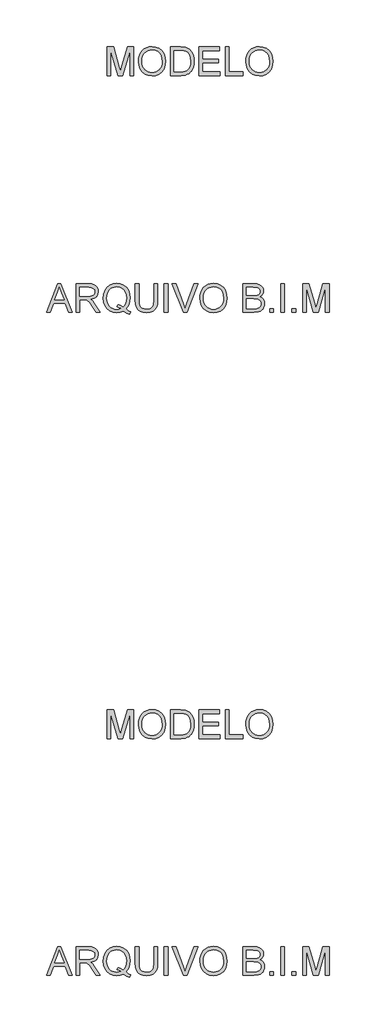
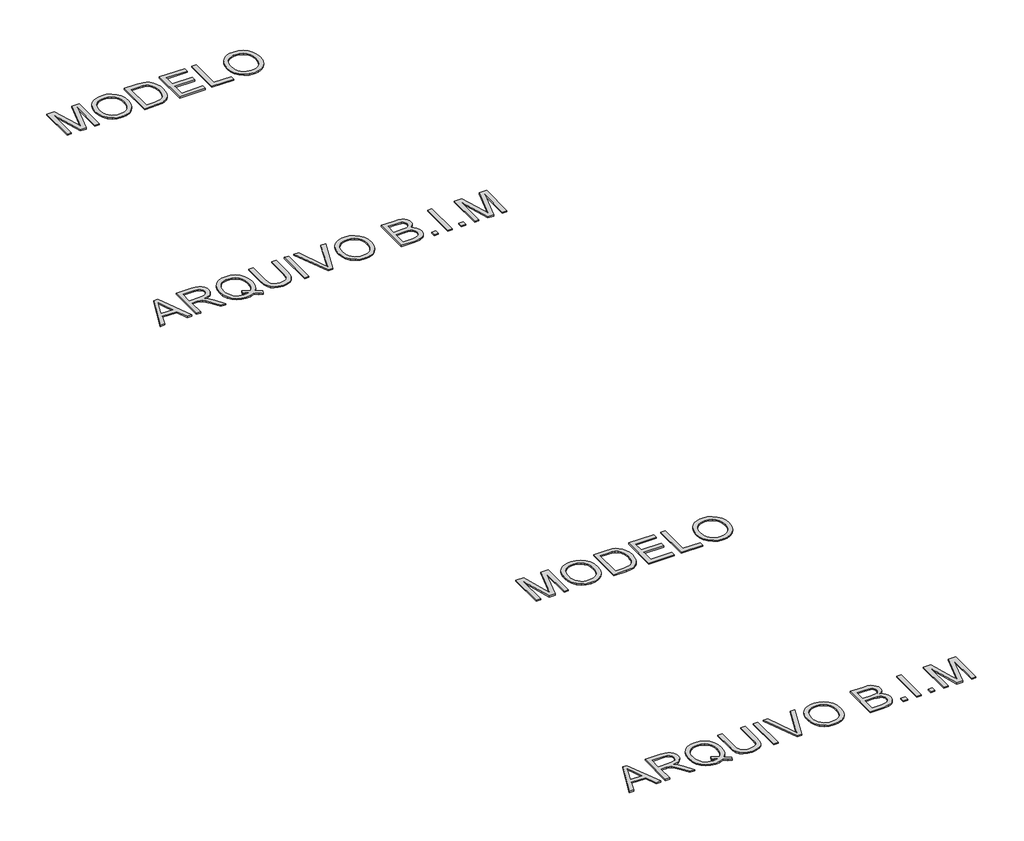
# One storey, part 11 of 19: 4 proxies.
"""IFC4 building model written with IfcOpenShell, lengths in millimetres."""

from ifc_helpers import new_model, si_unit, origin, origin_with_axes, place, context, project, spatial, polyline, outline, extrude, element, save

model = new_model("IFC4")

# Units and contexts
model_context = context("Model", 3, world=origin())
ifc_project = project(units=[si_unit("LENGTHUNIT", "METRE", prefix="MILLI")], contexts=[model_context])

# Site, building, storey
site = spatial("IfcSite", under=ifc_project)
building = spatial("IfcBuilding", under=site)
storey = spatial("IfcBuildingStorey", under=building, Name="Marelli - Linha ACTIVE - Planta Baixa", Elevation=0.0)

# Proxies
placement = place(None, origin())
element("IfcBuildingElementProxy", 1, Name="300mm Arial", ObjectType="300mm Arial", at=placement, inside=storey, context=model_context, shape_type="SweptSolid", body=[
    extrude(outline(polyline([(-5609.419598, -42280.5663201), (-5489.1221856, -41979.1973896), (-5457.0428756, -41979.1973896), (-5336.7454632, -42280.5663201), (-5376.550295, -42280.5663201), (-5411.0576262, -42186.3885293), (-5535.1810114, -42186.3885293), (-5569.6147661, -42280.5663201), (-5609.419598, -42280.5663201)]), holes=[polyline([(-5521.3486483, -42148.717413), (-5424.8164128, -42148.717413), (-5451.9661041, -42074.6259792), (-5473.0825306, -42016.8685059), (-5491.8445123, -42068.1512561), (-5521.3486483, -42148.717413)])]), origin_with_axes(), (0.0, 0.0, 1.0), 10.0),
    extrude(outline(polyline([(-5296.4991729, -42280.5663201), (-5296.4991729, -41979.1973896), (-5166.6368286, -41979.1973896), (-5131.7340243, -41981.2299376), (-5106.3409696, -41987.3275817), (-5087.7813229, -41998.5847708), (-5073.3787428, -42016.0959537), (-5064.1357077, -42037.8101885), (-5061.054696, -42061.6765329), (-5066.1590587, -42091.3646099), (-5081.4721467, -42115.9759154), (-5093.0719259, -42126.0052983), (-5107.4538126, -42134.0205273), (-5144.5639089, -42144.0085235), (-5123.1531768, -42160.1217548), (-5092.6189712, -42198.8965171), (-5042.3662906, -42280.5663201), (-5086.144248, -42280.5663201), (-5125.3604687, -42218.0999573), (-5153.6873824, -42176.750021), (-5173.5897983, -42157.2154871), (-5191.5056515, -42150.0417882), (-5213.357842, -42148.717413), (-5258.8280566, -42148.717413), (-5258.8280566, -42280.5663201), (-5296.4991729, -42280.5663201)]), holes=[polyline([(-5258.8280566, -42111.0462967), (-5174.5095033, -42111.0462967), (-5150.293671, -42109.7127245), (-5131.5040981, -42105.7120078), (-5117.3590353, -42098.7774322), (-5107.0767336, -42088.6422832), (-5100.8135426, -42076.3826157), (-5098.7258123, -42063.0744845), (-5102.7081349, -42044.6987789), (-5114.6551027, -42029.8915286), (-5135.2105092, -42020.1242616), (-5165.0181478, -42016.8685059), (-5258.8280566, -42016.8685059), (-5258.8280566, -42111.0462967)])]), origin_with_axes(), (0.0, 0.0, 1.0), 10.0),
    extrude(outline(polyline([(-4768.7356626, -42244.4403081), (-4744.4002686, -42263.036743), (-4722.0146492, -42275.8574305), (-4732.1681923, -42303.4485802), (-4763.2358268, -42289.0460001), (-4794.1930967, -42268.205485), (-4829.0499157, -42281.0077785), (-4867.4016137, -42285.2752096), (-4905.9372527, -42280.3547879), (-4940.7572836, -42265.5935229), (-4969.9211287, -42241.9203165), (-4991.4882107, -42210.2640708), (-5004.814736, -42172.3630282), (-5009.2569111, -42129.9554312), (-5004.823933, -42087.511046), (-4991.5249989, -42049.0581805), (-4970.0406904, -42016.9512794), (-4941.0515892, -41993.5447874), (-4906.360317, -41979.2525719), (-4867.7694957, -41974.4885001), (-4828.8751718, -41979.3629365), (-4794.0091557, -41993.9862458), (-4765.0660397, -42017.3835407), (-4743.9404161, -42048.5799339), (-4731.0277581, -42085.9199564), (-4726.7235388, -42127.7481393), (-4729.3355009, -42162.5313819), (-4737.1713874, -42193.5990164), (-4750.2863806, -42220.9142546), (-4768.7356626, -42244.4403081)]), holes=[polyline([(-4857.0273415, -42194.3347804), (-4825.3527017, -42206.3093393), (-4799.784903, -42222.9559996), (-4784.3016695, -42205.4816049), (-4773.2422171, -42184.1076609), (-4766.6065456, -42158.8341679), (-4764.3946551, -42129.6611256), (-4767.521652, -42096.5057608), (-4776.9026429, -42067.8201623), (-4792.3077015, -42044.3308969), (-4813.5069014, -42026.7645316), (-4839.065503, -42015.8108452), (-4867.5487665, -42012.1596164), (-4889.033075, -42014.0059242), (-4908.6043972, -42019.5448474), (-4926.2627329, -42028.7763863), (-4942.0080823, -42041.7005406), (-4954.9483315, -42058.2897193), (-4964.1913666, -42078.5163313), (-4969.7371877, -42102.3803764), (-4971.5857948, -42129.8818548), (-4969.7578811, -42156.6659634), (-4964.2741401, -42180.1437324), (-4955.1345718, -42200.3151621), (-4942.3391761, -42217.1802523), (-4926.7018921, -42230.4906827), (-4909.0366585, -42239.9981331), (-4889.3434755, -42245.7026032), (-4867.6223429, -42247.6040933), (-4846.7082515, -42245.6727128), (-4827.081747, -42239.8785714), (-4846.3771577, -42229.853787), (-4866.7394261, -42223.1767288), (-4857.0273415, -42194.3347804)])]), origin_with_axes(), (0.0, 0.0, 1.0), 10.0),
    extrude(outline(polyline([(-4472.4435037, -41979.1973896), (-4434.7723874, -41979.1973896), (-4434.7723874, -42153.0584205), (-4437.3291673, -42193.7737604), (-4444.9995069, -42225.1265034), (-4459.3285106, -42249.3147446), (-4481.8612828, -42268.5365788), (-4512.6530058, -42281.0905519), (-4551.7588619, -42285.2752096), (-4590.0093923, -42281.6331779), (-4620.5895832, -42270.7070826), (-4643.5086315, -42252.8740029), (-4658.7757343, -42228.5110178), (-4667.3565818, -42195.8338995), (-4670.2168643, -42153.0584205), (-4670.2168643, -41979.1973896), (-4632.545748, -41979.1973896), (-4632.545748, -42151.7340454), (-4630.6879439, -42185.588386), (-4625.1145317, -42209.1604248), (-4615.0161709, -42225.4851883), (-4599.5835212, -42237.597703), (-4579.4603761, -42245.1024957), (-4555.290529, -42247.6040933), (-4516.9756192, -42242.6560805), (-4502.6328199, -42236.4710644), (-4491.499791, -42227.812042), (-4483.1626653, -42215.6351479), (-4477.2075755, -42198.8965171), (-4472.4435037, -42151.7340454), (-4472.4435037, -41979.1973896)])), origin_with_axes(), (0.0, 0.0, 1.0), 10.0),
    extrude(outline(polyline([(-4364.1390443, -42280.5663201), (-4364.1390443, -41979.1973896), (-4326.467928, -41979.1973896), (-4326.467928, -42280.5663201), (-4364.1390443, -42280.5663201)])), origin_with_axes(), (0.0, 0.0, 1.0), 10.0),
    extrude(outline(polyline([(-4162.0982526, -42280.5663201), (-4282.027783, -41979.1973896), (-4241.7079163, -41979.1973896), (-4161.436065, -42196.3213432), (-4145.1756808, -42245.2496485), (-4129.1360258, -42196.3213432), (-4048.6434453, -41979.1973896), (-4008.3235786, -41979.1973896), (-4123.1763375, -42280.5663201), (-4162.0982526, -42280.5663201)])), origin_with_axes(), (0.0, 0.0, 1.0), 10.0),
    extrude(outline(polyline([(-3987.4278813, -42133.8549804), (-3984.9170866, -42098.5061192), (-3977.3847028, -42067.213157), (-3964.8307297, -42039.9760937), (-3947.2551674, -42016.7949295), (-3925.711078, -41998.2858666), (-3901.2515239, -41985.0651074), (-3873.8765049, -41977.1326519), (-3843.5860211, -41974.4885001), (-3804.0571008, -41979.454907), (-3768.6116705, -41994.3541278), (-3739.1811109, -42018.1376988), (-3717.6968024, -42049.7571563), (-3704.5634152, -42087.68579), (-3700.1856194, -42130.3968896), (-3704.7933414, -42173.6782064), (-3718.6165074, -42212.140269), (-3740.8917622, -42243.8149087), (-3770.8557507, -42266.733957), (-3805.9976783, -42280.6398965), (-3843.8067503, -42285.2752096), (-3883.942676, -42280.1524528), (-3919.5904413, -42264.7841825), (-3948.9474246, -42240.5591531), (-3970.2110039, -42208.8661192), (-3983.1236619, -42172.3998164), (-3987.4278813, -42133.8549804)]), holes=[polyline([(-3949.7567649, -42134.2228624), (-3947.873669, -42159.1974513), (-3942.2243811, -42181.3669401), (-3932.8089013, -42200.7313286), (-3919.6272295, -42217.2906169), (-3903.6036694, -42230.5527628), (-3885.6625243, -42240.0257242), (-3865.8037944, -42245.709501), (-3844.0274795, -42247.6040933), (-3821.8786842, -42245.6911069), (-3801.7854294, -42239.9521478), (-3783.7477154, -42230.3872159), (-3767.7655419, -42216.9963113), (-3754.6804392, -42200.0875351), (-3745.3339373, -42179.9689885), (-3739.7260361, -42156.6406715), (-3737.8567357, -42130.102584), (-3741.0573091, -42096.7540812), (-3750.6590292, -42067.9305269), (-3766.4135756, -42044.358488), (-3788.0726281, -42026.7645316), (-3814.2014468, -42015.8108452), (-3843.3652919, -42012.1596164), (-3864.3851494, -42013.9185522), (-3883.8874937, -42019.1953595), (-3901.8723248, -42027.9900385), (-3918.3396426, -42040.302589), (-3932.0846336, -42056.7262208), (-3941.9024844, -42077.8541437), (-3947.7931948, -42103.6863575), (-3949.7567649, -42134.2228624)])]), origin_with_axes(), (0.0, 0.0, 1.0), 10.0),
    extrude(outline(polyline([(-3530.665596, -42280.5663201), (-3530.665596, -41979.1973896), (-3415.6656844, -41979.1973896), (-3384.0370298, -41981.4138786), (-3359.3429509, -41988.0633457), (-3340.4154222, -41999.3113377), (-3326.0864185, -42015.3234015), (-3317.0641126, -42034.1589597), (-3314.0566773, -42053.8774346), (-3316.585866, -42072.0232141), (-3324.1734321, -42089.0837416), (-3336.874558, -42104.0105535), (-3354.7444259, -42115.7551862), (-3333.3980732, -42126.9020107), (-3317.6251326, -42143.8613707), (-3307.8854568, -42165.5112261), (-3304.6388982, -42190.7295368), (-3306.8553872, -42211.7447958), (-3313.5048543, -42231.2333445), (-3323.4284711, -42247.8064284), (-3335.4674094, -42260.0752929), (-3350.2102804, -42268.9596431), (-3368.2456952, -42275.3791839), (-3416.5486011, -42280.5663201), (-3530.665596, -42280.5663201)]), holes=[polyline([(-3492.9944797, -42101.6285176), (-3424.2005466, -42101.6285176), (-3384.0278328, -42098.3911561), (-3369.9655435, -42092.8085468), (-3359.8579857, -42084.4484284), (-3353.7603416, -42073.4395597), (-3351.7277936, -42059.9106994), (-3353.6223859, -42046.7773121), (-3359.3061627, -42035.3361821), (-3368.5216067, -42026.4058467), (-3381.0112004, -42020.8048433), (-3429.424471, -42016.8685059), (-3492.9944797, -42016.8685059), (-3492.9944797, -42101.6285176)]), polyline([(-3492.9944797, -42242.8952038), (-3415.7392607, -42242.8952038), (-3387.7802291, -42241.4236758), (-3364.1254168, -42233.2199073), (-3348.4536438, -42216.4812765), (-3343.8459218, -42204.6538704), (-3342.3100145, -42191.0974188), (-3344.1126363, -42175.3520694), (-3349.5205016, -42161.814012), (-3358.9658718, -42151.2282076), (-3372.8810083, -42144.3396173), (-3392.5902862, -42140.5596298), (-3419.4180807, -42139.2996339), (-3492.9944797, -42139.2996339), (-3492.9944797, -42242.8952038)])]), origin_with_axes(), (0.0, 0.0, 1.0), 10.0),
    extrude(outline(polyline([(-3248.1322237, -42280.5663201), (-3248.1322237, -42242.8952038), (-3210.4611074, -42242.8952038), (-3210.4611074, -42280.5663201), (-3248.1322237, -42280.5663201)])), origin_with_axes(), (0.0, 0.0, 1.0), 10.0),
    extrude(outline(polyline([(-3130.4099853, -42280.5663201), (-3130.4099853, -41979.1973896), (-3092.738869, -41979.1973896), (-3092.738869, -42280.5663201), (-3130.4099853, -42280.5663201)])), origin_with_axes(), (0.0, 0.0, 1.0), 10.0),
    extrude(outline(polyline([(-3012.6877468, -42280.5663201), (-3012.6877468, -42242.8952038), (-2975.0166305, -42242.8952038), (-2975.0166305, -42280.5663201), (-3012.6877468, -42280.5663201)])), origin_with_axes(), (0.0, 0.0, 1.0), 10.0),
    extrude(outline(polyline([(-2899.6743979, -42280.5663201), (-2899.6743979, -41979.1973896), (-2834.8535904, -41979.1973896), (-2773.196568, -42191.6124536), (-2760.7621565, -42235.9790223), (-2747.2976755, -42187.9336337), (-2686.6707227, -41979.1973896), (-2621.8499152, -41979.1973896), (-2621.8499152, -42280.5663201), (-2659.5210315, -42280.5663201), (-2659.5210315, -42016.8685059), (-2735.2311461, -42280.5663201), (-2786.293167, -42280.5663201), (-2862.0032816, -42016.8685059), (-2862.0032816, -42280.5663201), (-2899.6743979, -42280.5663201)])), origin_with_axes(), (0.0, 0.0, 1.0), 10.0),
])
element("IfcBuildingElementProxy", 2, Name="300mm Arial", ObjectType="300mm Arial", at=placement, inside=storey, context=model_context, shape_type="SweptSolid", body=[
    extrude(outline(polyline([(-4966.8769052, -39780.5663201), (-4966.8769052, -39479.1973896), (-4902.0560977, -39479.1973896), (-4840.3990753, -39691.6124536), (-4827.9646638, -39735.9790223), (-4814.5001828, -39687.9336337), (-4753.87323, -39479.1973896), (-4689.0524225, -39479.1973896), (-4689.0524225, -39780.5663201), (-4726.7235388, -39780.5663201), (-4726.7235388, -39516.8685059), (-4802.4336534, -39780.5663201), (-4853.4956743, -39780.5663201), (-4929.2057889, -39516.8685059), (-4929.2057889, -39780.5663201), (-4966.8769052, -39780.5663201)])), origin_with_axes(), (0.0, 0.0, 1.0), 10.0),
    extrude(outline(polyline([(-4637.2546375, -39633.8549804), (-4634.7438429, -39598.5061192), (-4627.2114591, -39567.213157), (-4614.657486, -39539.9760937), (-4597.0819237, -39516.7949295), (-4575.5378343, -39498.2858666), (-4551.0782802, -39485.0651074), (-4523.7032612, -39477.1326519), (-4493.4127774, -39474.4885001), (-4453.883857, -39479.454907), (-4418.4384268, -39494.3541278), (-4389.0078672, -39518.1376988), (-4367.5235587, -39549.7571563), (-4354.3901714, -39587.68579), (-4350.0123757, -39630.3968896), (-4354.6200977, -39673.6782064), (-4368.4432637, -39712.140269), (-4390.7185185, -39743.8149087), (-4420.682507, -39766.733957), (-4455.8244346, -39780.6398965), (-4493.6335066, -39785.2752096), (-4533.7694323, -39780.1524528), (-4569.4171976, -39764.7841825), (-4598.7741808, -39740.5591531), (-4620.0377602, -39708.8661192), (-4632.9504182, -39672.3998164), (-4637.2546375, -39633.8549804)]), holes=[polyline([(-4599.5835212, -39634.2228624), (-4597.7004253, -39659.1974513), (-4592.0511374, -39681.3669401), (-4582.6356576, -39700.7313286), (-4569.4539858, -39717.2906169), (-4553.4304257, -39730.5527628), (-4535.4892806, -39740.0257242), (-4515.6305507, -39745.709501), (-4493.8542358, -39747.6040933), (-4471.7054404, -39745.6911069), (-4451.6121857, -39739.9521478), (-4433.5744716, -39730.3872159), (-4417.5922982, -39716.9963113), (-4404.5071955, -39700.0875351), (-4395.1606936, -39679.9689885), (-4389.5527924, -39656.6406715), (-4387.683492, -39630.102584), (-4390.8840654, -39596.7540812), (-4400.4857854, -39567.9305269), (-4416.2403319, -39544.358488), (-4437.8993843, -39526.7645316), (-4464.0282031, -39515.8108452), (-4493.1920482, -39512.1596164), (-4514.2119057, -39513.9185522), (-4533.71425, -39519.1953595), (-4551.699081, -39527.9900385), (-4568.1663988, -39540.302589), (-4581.9113899, -39556.7262208), (-4591.7292406, -39577.8541437), (-4597.6199511, -39603.6863575), (-4599.5835212, -39634.2228624)])]), origin_with_axes(), (0.0, 0.0, 1.0), 10.0),
    extrude(outline(polyline([(-4298.2145908, -39780.5663201), (-4298.2145908, -39479.1973896), (-4194.2511389, -39479.1973896), (-4140.4667912, -39483.5383972), (-4116.444097, -39491.9077126), (-4096.173799, -39505.0962821), (-4075.333284, -39528.0521186), (-4060.4892455, -39556.5997614), (-4051.6048953, -39590.1873876), (-4048.6434453, -39628.2631741), (-4050.6484021, -39660.6091985), (-4056.6632727, -39689.0740679), (-4065.8235344, -39713.3082943), (-4077.2646645, -39732.9623899), (-4090.4348399, -39748.477813), (-4104.7822377, -39760.2960221), (-4121.254154, -39769.0608107), (-4140.797885, -39775.4159721), (-4189.2479438, -39780.5663201), (-4298.2145908, -39780.5663201)]), holes=[polyline([(-4260.5434745, -39742.8952038), (-4193.8832569, -39742.8952038), (-4166.3105014, -39741.5340404), (-4145.39641, -39737.4505502), (-4129.6142724, -39730.8838566), (-4117.4373783, -39722.0730828), (-4104.3499764, -39705.7667134), (-4094.5183301, -39684.6594839), (-4088.3655037, -39658.6594239), (-4086.3145616, -39627.6745629), (-4090.3336724, -39586.6189322), (-4102.3910047, -39556.3054558), (-4120.2056904, -39535.4833349), (-4141.4968608, -39522.9017706), (-4163.1651104, -39518.3768221), (-4194.9133265, -39516.8685059), (-4260.5434745, -39516.8685059), (-4260.5434745, -39742.8952038)])]), origin_with_axes(), (0.0, 0.0, 1.0), 10.0),
    extrude(outline(polyline([(-3996.8456603, -39780.5663201), (-3996.8456603, -39479.1973896), (-3780.2367416, -39479.1973896), (-3780.2367416, -39516.8685059), (-3959.174544, -39516.8685059), (-3959.174544, -39606.3374072), (-3789.6545206, -39606.3374072), (-3789.6545206, -39644.0085235), (-3959.174544, -39644.0085235), (-3959.174544, -39742.8952038), (-3775.527852, -39742.8952038), (-3775.527852, -39780.5663201), (-3996.8456603, -39780.5663201)])), origin_with_axes(), (0.0, 0.0, 1.0), 10.0),
    extrude(outline(polyline([(-3719.0211776, -39780.5663201), (-3719.0211776, -39479.1973896), (-3681.3500613, -39479.1973896), (-3681.3500613, -39742.8952038), (-3530.665596, -39742.8952038), (-3530.665596, -39780.5663201), (-3719.0211776, -39780.5663201)])), origin_with_axes(), (0.0, 0.0, 1.0), 10.0),
    extrude(outline(polyline([(-3502.4122588, -39633.8549804), (-3499.9014642, -39598.5061192), (-3492.3690803, -39567.213157), (-3479.8151073, -39539.9760937), (-3462.2395449, -39516.7949295), (-3440.6954556, -39498.2858666), (-3416.2359014, -39485.0651074), (-3388.8608825, -39477.1326519), (-3358.5703987, -39474.4885001), (-3319.0414783, -39479.454907), (-3283.5960481, -39494.3541278), (-3254.1654885, -39518.1376988), (-3232.6811799, -39549.7571563), (-3219.5477927, -39587.68579), (-3215.169997, -39630.3968896), (-3219.777719, -39673.6782064), (-3233.6008849, -39712.140269), (-3255.8761397, -39743.8149087), (-3285.8401283, -39766.733957), (-3320.9820558, -39780.6398965), (-3358.7911279, -39785.2752096), (-3398.9270536, -39780.1524528), (-3434.5748189, -39764.7841825), (-3463.9318021, -39740.5591531), (-3485.1953814, -39708.8661192), (-3498.1080395, -39672.3998164), (-3502.4122588, -39633.8549804)]), holes=[polyline([(-3464.7411425, -39634.2228624), (-3462.8580465, -39659.1974513), (-3457.2087587, -39681.3669401), (-3447.7932788, -39700.7313286), (-3434.6116071, -39717.2906169), (-3418.5880469, -39730.5527628), (-3400.6469019, -39740.0257242), (-3380.7881719, -39745.709501), (-3359.0118571, -39747.6040933), (-3336.8630617, -39745.6911069), (-3316.769807, -39739.9521478), (-3298.7320929, -39730.3872159), (-3282.7499195, -39716.9963113), (-3269.6648168, -39700.0875351), (-3260.3183148, -39679.9689885), (-3254.7104137, -39656.6406715), (-3252.8411133, -39630.102584), (-3256.0416866, -39596.7540812), (-3265.6434067, -39567.9305269), (-3281.3979532, -39544.358488), (-3303.0570056, -39526.7645316), (-3329.1858243, -39515.8108452), (-3358.3496695, -39512.1596164), (-3379.369527, -39513.9185522), (-3398.8718713, -39519.1953595), (-3416.8567023, -39527.9900385), (-3433.3240201, -39540.302589), (-3447.0690112, -39556.7262208), (-3456.8868619, -39577.8541437), (-3462.7775724, -39603.6863575), (-3464.7411425, -39634.2228624)])]), origin_with_axes(), (0.0, 0.0, 1.0), 10.0),
])
element("IfcBuildingElementProxy", 3, Name="300mm Arial", ObjectType="300mm Arial", at=placement, inside=storey, context=model_context, shape_type="SweptSolid", body=[
    extrude(outline(polyline([(-5609.419598, -49280.5663201), (-5489.1221856, -48979.1973896), (-5457.0428756, -48979.1973896), (-5336.7454632, -49280.5663201), (-5376.550295, -49280.5663201), (-5411.0576262, -49186.3885293), (-5535.1810114, -49186.3885293), (-5569.6147661, -49280.5663201), (-5609.419598, -49280.5663201)]), holes=[polyline([(-5521.3486483, -49148.717413), (-5424.8164128, -49148.717413), (-5451.9661041, -49074.6259792), (-5473.0825306, -49016.8685059), (-5491.8445123, -49068.1512561), (-5521.3486483, -49148.717413)])]), origin_with_axes(), (0.0, 0.0, 1.0), 10.0),
    extrude(outline(polyline([(-5296.4991729, -49280.5663201), (-5296.4991729, -48979.1973896), (-5166.6368286, -48979.1973896), (-5131.7340243, -48981.2299376), (-5106.3409696, -48987.3275817), (-5087.7813229, -48998.5847708), (-5073.3787428, -49016.0959537), (-5064.1357077, -49037.8101885), (-5061.054696, -49061.6765329), (-5066.1590587, -49091.3646099), (-5081.4721467, -49115.9759154), (-5093.0719259, -49126.0052983), (-5107.4538126, -49134.0205273), (-5144.5639089, -49144.0085235), (-5123.1531768, -49160.1217548), (-5092.6189712, -49198.8965171), (-5042.3662906, -49280.5663201), (-5086.144248, -49280.5663201), (-5125.3604687, -49218.0999573), (-5153.6873824, -49176.750021), (-5173.5897983, -49157.2154871), (-5191.5056515, -49150.0417882), (-5213.357842, -49148.717413), (-5258.8280566, -49148.717413), (-5258.8280566, -49280.5663201), (-5296.4991729, -49280.5663201)]), holes=[polyline([(-5258.8280566, -49111.0462967), (-5174.5095033, -49111.0462967), (-5150.293671, -49109.7127245), (-5131.5040981, -49105.7120078), (-5117.3590353, -49098.7774322), (-5107.0767336, -49088.6422832), (-5100.8135426, -49076.3826157), (-5098.7258123, -49063.0744845), (-5102.7081349, -49044.6987789), (-5114.6551027, -49029.8915286), (-5135.2105092, -49020.1242616), (-5165.0181478, -49016.8685059), (-5258.8280566, -49016.8685059), (-5258.8280566, -49111.0462967)])]), origin_with_axes(), (0.0, 0.0, 1.0), 10.0),
    extrude(outline(polyline([(-4768.7356626, -49244.4403081), (-4744.4002686, -49263.036743), (-4722.0146492, -49275.8574305), (-4732.1681923, -49303.4485802), (-4763.2358268, -49289.0460001), (-4794.1930967, -49268.205485), (-4829.0499157, -49281.0077785), (-4867.4016137, -49285.2752096), (-4905.9372527, -49280.3547879), (-4940.7572836, -49265.5935229), (-4969.9211287, -49241.9203165), (-4991.4882107, -49210.2640708), (-5004.814736, -49172.3630282), (-5009.2569111, -49129.9554312), (-5004.823933, -49087.511046), (-4991.5249989, -49049.0581805), (-4970.0406904, -49016.9512794), (-4941.0515892, -48993.5447874), (-4906.360317, -48979.2525719), (-4867.7694957, -48974.4885001), (-4828.8751718, -48979.3629365), (-4794.0091557, -48993.9862458), (-4765.0660397, -49017.3835407), (-4743.9404161, -49048.5799339), (-4731.0277581, -49085.9199564), (-4726.7235388, -49127.7481393), (-4729.3355009, -49162.5313819), (-4737.1713874, -49193.5990164), (-4750.2863806, -49220.9142546), (-4768.7356626, -49244.4403081)]), holes=[polyline([(-4857.0273415, -49194.3347804), (-4825.3527017, -49206.3093393), (-4799.784903, -49222.9559996), (-4784.3016695, -49205.4816049), (-4773.2422171, -49184.1076609), (-4766.6065456, -49158.8341679), (-4764.3946551, -49129.6611256), (-4767.521652, -49096.5057608), (-4776.9026429, -49067.8201623), (-4792.3077015, -49044.3308969), (-4813.5069014, -49026.7645316), (-4839.065503, -49015.8108452), (-4867.5487665, -49012.1596164), (-4889.033075, -49014.0059242), (-4908.6043972, -49019.5448474), (-4926.2627329, -49028.7763863), (-4942.0080823, -49041.7005406), (-4954.9483315, -49058.2897193), (-4964.1913666, -49078.5163313), (-4969.7371877, -49102.3803764), (-4971.5857948, -49129.8818548), (-4969.7578811, -49156.6659634), (-4964.2741401, -49180.1437324), (-4955.1345718, -49200.3151621), (-4942.3391761, -49217.1802523), (-4926.7018921, -49230.4906827), (-4909.0366585, -49239.9981331), (-4889.3434755, -49245.7026032), (-4867.6223429, -49247.6040933), (-4846.7082515, -49245.6727128), (-4827.081747, -49239.8785714), (-4846.3771577, -49229.853787), (-4866.7394261, -49223.1767288), (-4857.0273415, -49194.3347804)])]), origin_with_axes(), (0.0, 0.0, 1.0), 10.0),
    extrude(outline(polyline([(-4472.4435037, -48979.1973896), (-4434.7723874, -48979.1973896), (-4434.7723874, -49153.0584205), (-4437.3291673, -49193.7737604), (-4444.9995069, -49225.1265034), (-4459.3285106, -49249.3147446), (-4481.8612828, -49268.5365788), (-4512.6530058, -49281.0905519), (-4551.7588619, -49285.2752096), (-4590.0093923, -49281.6331779), (-4620.5895832, -49270.7070826), (-4643.5086315, -49252.8740029), (-4658.7757343, -49228.5110178), (-4667.3565818, -49195.8338995), (-4670.2168643, -49153.0584205), (-4670.2168643, -48979.1973896), (-4632.545748, -48979.1973896), (-4632.545748, -49151.7340454), (-4630.6879439, -49185.588386), (-4625.1145317, -49209.1604248), (-4615.0161709, -49225.4851883), (-4599.5835212, -49237.597703), (-4579.4603761, -49245.1024957), (-4555.290529, -49247.6040933), (-4516.9756192, -49242.6560805), (-4502.6328199, -49236.4710644), (-4491.499791, -49227.812042), (-4483.1626653, -49215.6351479), (-4477.2075755, -49198.8965171), (-4472.4435037, -49151.7340454), (-4472.4435037, -48979.1973896)])), origin_with_axes(), (0.0, 0.0, 1.0), 10.0),
    extrude(outline(polyline([(-4364.1390443, -49280.5663201), (-4364.1390443, -48979.1973896), (-4326.467928, -48979.1973896), (-4326.467928, -49280.5663201), (-4364.1390443, -49280.5663201)])), origin_with_axes(), (0.0, 0.0, 1.0), 10.0),
    extrude(outline(polyline([(-4162.0982526, -49280.5663201), (-4282.027783, -48979.1973896), (-4241.7079163, -48979.1973896), (-4161.436065, -49196.3213432), (-4145.1756808, -49245.2496485), (-4129.1360258, -49196.3213432), (-4048.6434453, -48979.1973896), (-4008.3235786, -48979.1973896), (-4123.1763375, -49280.5663201), (-4162.0982526, -49280.5663201)])), origin_with_axes(), (0.0, 0.0, 1.0), 10.0),
    extrude(outline(polyline([(-3987.4278813, -49133.8549804), (-3984.9170866, -49098.5061192), (-3977.3847028, -49067.213157), (-3964.8307297, -49039.9760937), (-3947.2551674, -49016.7949295), (-3925.711078, -48998.2858666), (-3901.2515239, -48985.0651074), (-3873.8765049, -48977.1326519), (-3843.5860211, -48974.4885001), (-3804.0571008, -48979.454907), (-3768.6116705, -48994.3541278), (-3739.1811109, -49018.1376988), (-3717.6968024, -49049.7571563), (-3704.5634152, -49087.68579), (-3700.1856194, -49130.3968896), (-3704.7933414, -49173.6782064), (-3718.6165074, -49212.140269), (-3740.8917622, -49243.8149087), (-3770.8557507, -49266.733957), (-3805.9976783, -49280.6398965), (-3843.8067503, -49285.2752096), (-3883.942676, -49280.1524528), (-3919.5904413, -49264.7841825), (-3948.9474246, -49240.5591531), (-3970.2110039, -49208.8661192), (-3983.1236619, -49172.3998164), (-3987.4278813, -49133.8549804)]), holes=[polyline([(-3949.7567649, -49134.2228624), (-3947.873669, -49159.1974513), (-3942.2243811, -49181.3669401), (-3932.8089013, -49200.7313286), (-3919.6272295, -49217.2906169), (-3903.6036694, -49230.5527628), (-3885.6625243, -49240.0257242), (-3865.8037944, -49245.709501), (-3844.0274795, -49247.6040933), (-3821.8786842, -49245.6911069), (-3801.7854294, -49239.9521478), (-3783.7477154, -49230.3872159), (-3767.7655419, -49216.9963113), (-3754.6804392, -49200.0875351), (-3745.3339373, -49179.9689885), (-3739.7260361, -49156.6406715), (-3737.8567357, -49130.102584), (-3741.0573091, -49096.7540812), (-3750.6590292, -49067.9305269), (-3766.4135756, -49044.358488), (-3788.0726281, -49026.7645316), (-3814.2014468, -49015.8108452), (-3843.3652919, -49012.1596164), (-3864.3851494, -49013.9185522), (-3883.8874937, -49019.1953595), (-3901.8723248, -49027.9900385), (-3918.3396426, -49040.302589), (-3932.0846336, -49056.7262208), (-3941.9024844, -49077.8541437), (-3947.7931948, -49103.6863575), (-3949.7567649, -49134.2228624)])]), origin_with_axes(), (0.0, 0.0, 1.0), 10.0),
    extrude(outline(polyline([(-3530.665596, -49280.5663201), (-3530.665596, -48979.1973896), (-3415.6656844, -48979.1973896), (-3384.0370298, -48981.4138786), (-3359.3429509, -48988.0633457), (-3340.4154222, -48999.3113377), (-3326.0864185, -49015.3234015), (-3317.0641126, -49034.1589597), (-3314.0566773, -49053.8774346), (-3316.585866, -49072.0232141), (-3324.1734321, -49089.0837416), (-3336.874558, -49104.0105535), (-3354.7444259, -49115.7551862), (-3333.3980732, -49126.9020107), (-3317.6251326, -49143.8613707), (-3307.8854568, -49165.5112261), (-3304.6388982, -49190.7295368), (-3306.8553872, -49211.7447958), (-3313.5048543, -49231.2333445), (-3323.4284711, -49247.8064284), (-3335.4674094, -49260.0752929), (-3350.2102804, -49268.9596431), (-3368.2456952, -49275.3791839), (-3416.5486011, -49280.5663201), (-3530.665596, -49280.5663201)]), holes=[polyline([(-3492.9944797, -49101.6285176), (-3424.2005466, -49101.6285176), (-3384.0278328, -49098.3911561), (-3369.9655435, -49092.8085468), (-3359.8579857, -49084.4484284), (-3353.7603416, -49073.4395597), (-3351.7277936, -49059.9106994), (-3353.6223859, -49046.7773121), (-3359.3061627, -49035.3361821), (-3368.5216067, -49026.4058467), (-3381.0112004, -49020.8048433), (-3429.424471, -49016.8685059), (-3492.9944797, -49016.8685059), (-3492.9944797, -49101.6285176)]), polyline([(-3492.9944797, -49242.8952038), (-3415.7392607, -49242.8952038), (-3387.7802291, -49241.4236758), (-3364.1254168, -49233.2199073), (-3348.4536438, -49216.4812765), (-3343.8459218, -49204.6538704), (-3342.3100145, -49191.0974188), (-3344.1126363, -49175.3520694), (-3349.5205016, -49161.814012), (-3358.9658718, -49151.2282076), (-3372.8810083, -49144.3396173), (-3392.5902862, -49140.5596298), (-3419.4180807, -49139.2996339), (-3492.9944797, -49139.2996339), (-3492.9944797, -49242.8952038)])]), origin_with_axes(), (0.0, 0.0, 1.0), 10.0),
    extrude(outline(polyline([(-3248.1322237, -49280.5663201), (-3248.1322237, -49242.8952038), (-3210.4611074, -49242.8952038), (-3210.4611074, -49280.5663201), (-3248.1322237, -49280.5663201)])), origin_with_axes(), (0.0, 0.0, 1.0), 10.0),
    extrude(outline(polyline([(-3130.4099853, -49280.5663201), (-3130.4099853, -48979.1973896), (-3092.738869, -48979.1973896), (-3092.738869, -49280.5663201), (-3130.4099853, -49280.5663201)])), origin_with_axes(), (0.0, 0.0, 1.0), 10.0),
    extrude(outline(polyline([(-3012.6877468, -49280.5663201), (-3012.6877468, -49242.8952038), (-2975.0166305, -49242.8952038), (-2975.0166305, -49280.5663201), (-3012.6877468, -49280.5663201)])), origin_with_axes(), (0.0, 0.0, 1.0), 10.0),
    extrude(outline(polyline([(-2899.6743979, -49280.5663201), (-2899.6743979, -48979.1973896), (-2834.8535904, -48979.1973896), (-2773.196568, -49191.6124536), (-2760.7621565, -49235.9790223), (-2747.2976755, -49187.9336337), (-2686.6707227, -48979.1973896), (-2621.8499152, -48979.1973896), (-2621.8499152, -49280.5663201), (-2659.5210315, -49280.5663201), (-2659.5210315, -49016.8685059), (-2735.2311461, -49280.5663201), (-2786.293167, -49280.5663201), (-2862.0032816, -49016.8685059), (-2862.0032816, -49280.5663201), (-2899.6743979, -49280.5663201)])), origin_with_axes(), (0.0, 0.0, 1.0), 10.0),
])
element("IfcBuildingElementProxy", 4, Name="300mm Arial", ObjectType="300mm Arial", at=placement, inside=storey, context=model_context, shape_type="SweptSolid", body=[
    extrude(outline(polyline([(-4966.8769052, -46780.5663201), (-4966.8769052, -46479.1973896), (-4902.0560977, -46479.1973896), (-4840.3990753, -46691.6124536), (-4827.9646638, -46735.9790223), (-4814.5001828, -46687.9336337), (-4753.87323, -46479.1973896), (-4689.0524225, -46479.1973896), (-4689.0524225, -46780.5663201), (-4726.7235388, -46780.5663201), (-4726.7235388, -46516.8685059), (-4802.4336534, -46780.5663201), (-4853.4956743, -46780.5663201), (-4929.2057889, -46516.8685059), (-4929.2057889, -46780.5663201), (-4966.8769052, -46780.5663201)])), origin_with_axes(), (0.0, 0.0, 1.0), 10.0),
    extrude(outline(polyline([(-4637.2546375, -46633.8549804), (-4634.7438429, -46598.5061192), (-4627.2114591, -46567.213157), (-4614.657486, -46539.9760937), (-4597.0819237, -46516.7949295), (-4575.5378343, -46498.2858666), (-4551.0782802, -46485.0651074), (-4523.7032612, -46477.1326519), (-4493.4127774, -46474.4885001), (-4453.883857, -46479.454907), (-4418.4384268, -46494.3541278), (-4389.0078672, -46518.1376988), (-4367.5235587, -46549.7571563), (-4354.3901714, -46587.68579), (-4350.0123757, -46630.3968896), (-4354.6200977, -46673.6782064), (-4368.4432637, -46712.140269), (-4390.7185185, -46743.8149087), (-4420.682507, -46766.733957), (-4455.8244346, -46780.6398965), (-4493.6335066, -46785.2752096), (-4533.7694323, -46780.1524528), (-4569.4171976, -46764.7841825), (-4598.7741808, -46740.5591531), (-4620.0377602, -46708.8661192), (-4632.9504182, -46672.3998164), (-4637.2546375, -46633.8549804)]), holes=[polyline([(-4599.5835212, -46634.2228624), (-4597.7004253, -46659.1974513), (-4592.0511374, -46681.3669401), (-4582.6356576, -46700.7313286), (-4569.4539858, -46717.2906169), (-4553.4304257, -46730.5527628), (-4535.4892806, -46740.0257242), (-4515.6305507, -46745.709501), (-4493.8542358, -46747.6040933), (-4471.7054404, -46745.6911069), (-4451.6121857, -46739.9521478), (-4433.5744716, -46730.3872159), (-4417.5922982, -46716.9963113), (-4404.5071955, -46700.0875351), (-4395.1606936, -46679.9689885), (-4389.5527924, -46656.6406715), (-4387.683492, -46630.102584), (-4390.8840654, -46596.7540812), (-4400.4857854, -46567.9305269), (-4416.2403319, -46544.358488), (-4437.8993843, -46526.7645316), (-4464.0282031, -46515.8108452), (-4493.1920482, -46512.1596164), (-4514.2119057, -46513.9185522), (-4533.71425, -46519.1953595), (-4551.699081, -46527.9900385), (-4568.1663988, -46540.302589), (-4581.9113899, -46556.7262208), (-4591.7292406, -46577.8541437), (-4597.6199511, -46603.6863575), (-4599.5835212, -46634.2228624)])]), origin_with_axes(), (0.0, 0.0, 1.0), 10.0),
    extrude(outline(polyline([(-4298.2145908, -46780.5663201), (-4298.2145908, -46479.1973896), (-4194.2511389, -46479.1973896), (-4140.4667912, -46483.5383972), (-4116.444097, -46491.9077126), (-4096.173799, -46505.0962821), (-4075.333284, -46528.0521186), (-4060.4892455, -46556.5997614), (-4051.6048953, -46590.1873876), (-4048.6434453, -46628.2631741), (-4050.6484021, -46660.6091985), (-4056.6632727, -46689.0740679), (-4065.8235344, -46713.3082943), (-4077.2646645, -46732.9623899), (-4090.4348399, -46748.477813), (-4104.7822377, -46760.2960221), (-4121.254154, -46769.0608107), (-4140.797885, -46775.4159721), (-4189.2479438, -46780.5663201), (-4298.2145908, -46780.5663201)]), holes=[polyline([(-4260.5434745, -46742.8952038), (-4193.8832569, -46742.8952038), (-4166.3105014, -46741.5340404), (-4145.39641, -46737.4505502), (-4129.6142724, -46730.8838566), (-4117.4373783, -46722.0730828), (-4104.3499764, -46705.7667134), (-4094.5183301, -46684.6594839), (-4088.3655037, -46658.6594239), (-4086.3145616, -46627.6745629), (-4090.3336724, -46586.6189322), (-4102.3910047, -46556.3054558), (-4120.2056904, -46535.4833349), (-4141.4968608, -46522.9017706), (-4163.1651104, -46518.3768221), (-4194.9133265, -46516.8685059), (-4260.5434745, -46516.8685059), (-4260.5434745, -46742.8952038)])]), origin_with_axes(), (0.0, 0.0, 1.0), 10.0),
    extrude(outline(polyline([(-3996.8456603, -46780.5663201), (-3996.8456603, -46479.1973896), (-3780.2367416, -46479.1973896), (-3780.2367416, -46516.8685059), (-3959.174544, -46516.8685059), (-3959.174544, -46606.3374072), (-3789.6545206, -46606.3374072), (-3789.6545206, -46644.0085235), (-3959.174544, -46644.0085235), (-3959.174544, -46742.8952038), (-3775.527852, -46742.8952038), (-3775.527852, -46780.5663201), (-3996.8456603, -46780.5663201)])), origin_with_axes(), (0.0, 0.0, 1.0), 10.0),
    extrude(outline(polyline([(-3719.0211776, -46780.5663201), (-3719.0211776, -46479.1973896), (-3681.3500613, -46479.1973896), (-3681.3500613, -46742.8952038), (-3530.665596, -46742.8952038), (-3530.665596, -46780.5663201), (-3719.0211776, -46780.5663201)])), origin_with_axes(), (0.0, 0.0, 1.0), 10.0),
    extrude(outline(polyline([(-3502.4122588, -46633.8549804), (-3499.9014642, -46598.5061192), (-3492.3690803, -46567.213157), (-3479.8151073, -46539.9760937), (-3462.2395449, -46516.7949295), (-3440.6954556, -46498.2858666), (-3416.2359014, -46485.0651074), (-3388.8608825, -46477.1326519), (-3358.5703987, -46474.4885001), (-3319.0414783, -46479.454907), (-3283.5960481, -46494.3541278), (-3254.1654885, -46518.1376988), (-3232.6811799, -46549.7571563), (-3219.5477927, -46587.68579), (-3215.169997, -46630.3968896), (-3219.777719, -46673.6782064), (-3233.6008849, -46712.140269), (-3255.8761397, -46743.8149087), (-3285.8401283, -46766.733957), (-3320.9820558, -46780.6398965), (-3358.7911279, -46785.2752096), (-3398.9270536, -46780.1524528), (-3434.5748189, -46764.7841825), (-3463.9318021, -46740.5591531), (-3485.1953814, -46708.8661192), (-3498.1080395, -46672.3998164), (-3502.4122588, -46633.8549804)]), holes=[polyline([(-3464.7411425, -46634.2228624), (-3462.8580465, -46659.1974513), (-3457.2087587, -46681.3669401), (-3447.7932788, -46700.7313286), (-3434.6116071, -46717.2906169), (-3418.5880469, -46730.5527628), (-3400.6469019, -46740.0257242), (-3380.7881719, -46745.709501), (-3359.0118571, -46747.6040933), (-3336.8630617, -46745.6911069), (-3316.769807, -46739.9521478), (-3298.7320929, -46730.3872159), (-3282.7499195, -46716.9963113), (-3269.6648168, -46700.0875351), (-3260.3183148, -46679.9689885), (-3254.7104137, -46656.6406715), (-3252.8411133, -46630.102584), (-3256.0416866, -46596.7540812), (-3265.6434067, -46567.9305269), (-3281.3979532, -46544.358488), (-3303.0570056, -46526.7645316), (-3329.1858243, -46515.8108452), (-3358.3496695, -46512.1596164), (-3379.369527, -46513.9185522), (-3398.8718713, -46519.1953595), (-3416.8567023, -46527.9900385), (-3433.3240201, -46540.302589), (-3447.0690112, -46556.7262208), (-3456.8868619, -46577.8541437), (-3462.7775724, -46603.6863575), (-3464.7411425, -46634.2228624)])]), origin_with_axes(), (0.0, 0.0, 1.0), 10.0),
])

save(model, "model.ifc")
